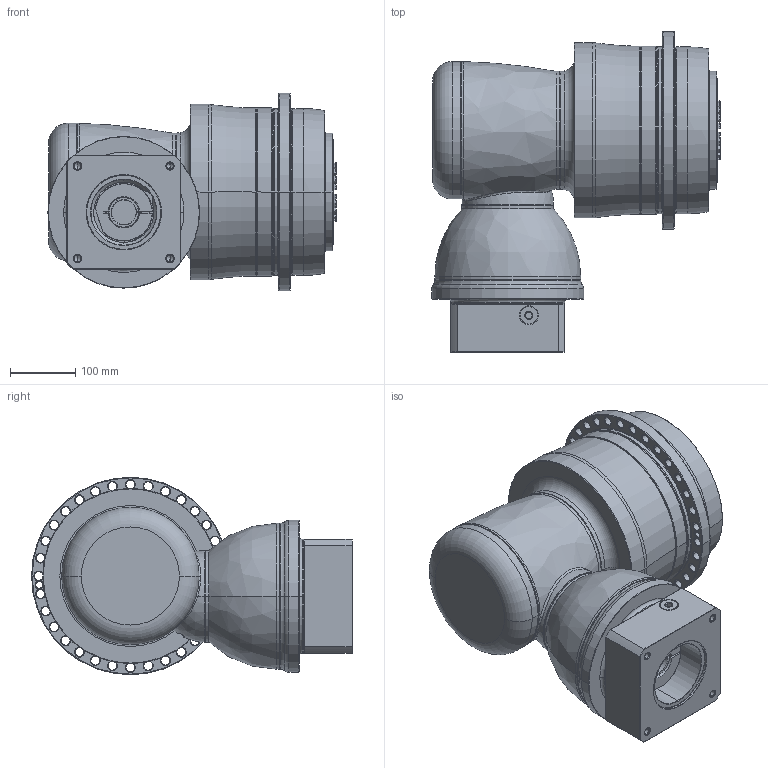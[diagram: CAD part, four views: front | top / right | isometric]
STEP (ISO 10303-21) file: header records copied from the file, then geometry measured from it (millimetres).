
FILE_DESCRIPTION((''),'2;1');
FILE_NAME('APCK255_3ST_38-P0409910201_ASM','2018-05-14T',('d01226'),(''),'PRO/ENGINEER BY PARAMETRIC TECHNOLOGY CORPORATION, 2008410','PRO/ENGINEER BY PARAMETRIC TECHNOLOGY CORPORATION, 2008410','');
FILE_SCHEMA(('CONFIG_CONTROL_DESIGN'));
Length unit declared in the file: millimetre
Products named in the file (13): P1008600002; P1832700001; P0278701003; P0359770103; P1211700001; P1315600001; P1007601001; P1318610201; P0409910201; P0503900012; P0912652001; 21711422019; APCK255_3ST_38-P0409910201_ASM
Assembly tree (12 placements, depth 2):
  APCK255_3ST_38-P0409910201_ASM
    P1008600002
    P1832700001
    P0278701003
    P0359770103
    P1211700001
    P1315600001
    P1007601001
    P1318610201
    P0409910201
    P0503900012
    P0912652001
    21711422019
Bounding box: 440.6 x 490.5 x 302 mm (x, y, z)
Volume: 24066524.9 mm3; surface area: 1453274.9 mm2
Topology: 13 solids, 25 shells, 809 faces, 1942 edges, 1182 vertices
Faces by surface type: cone 270, cylinder 241, plane 138, torus 125, bspline 33, sphere 2
Entity records: 30829 total; most frequent: CARTESIAN_POINT 11457, DIRECTION 4341, ORIENTED_EDGE 3806, EDGE_CURVE 1928, AXIS2_PLACEMENT_3D 1902, VERTEX_POINT 1182, CIRCLE 1089, EDGE_LOOP 930
